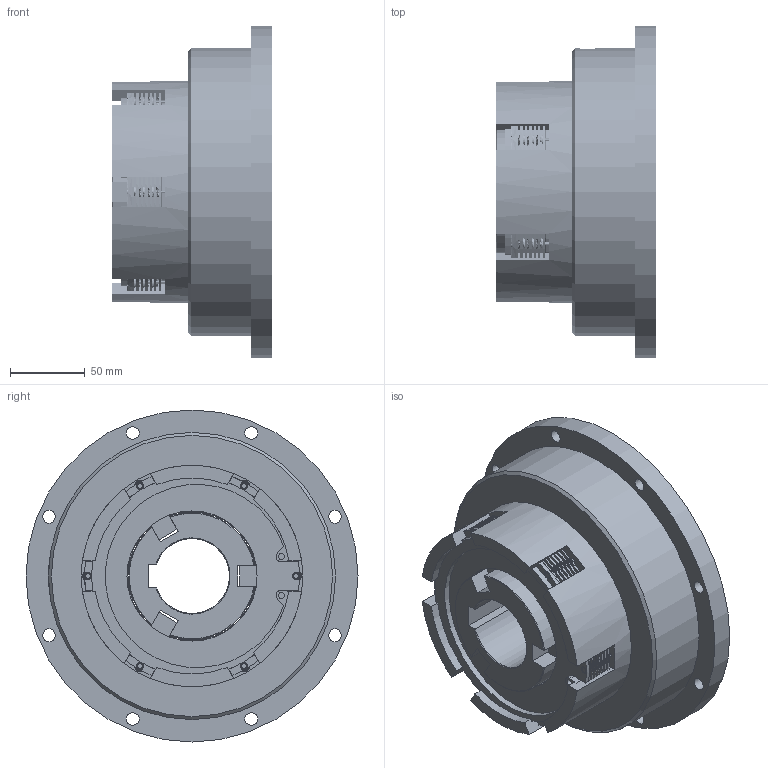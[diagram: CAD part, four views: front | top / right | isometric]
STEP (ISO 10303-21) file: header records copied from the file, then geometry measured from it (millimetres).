
FILE_DESCRIPTION(/* description */ (''),/* implementation_level */ '2;1');
FILE_NAME(/* name */ '\\Srv-tecnico\DATI\UFFICIO TECNICO\ARCHIVIO INVENTOR\DISEGNI\UFFICIO TECNICO\03_Friz_Oleodinamiche e Pneumatiche_Cilindro_Statico\03_40 FPL-N\03_40_006_01 FPL_N06\C\03_40_006_02 FPL-N006C V2013@STEP.stp',/* time_stamp */ '2016-01-28T14:48:46+01:00',/* author */ ('stefano'),/* organization */ (''),/* preprocessor_version */ 'ST-DEVELOPER v15.6',/* originating_system */ 'Autodesk Inventor 2015',/* authorisation */ '');
FILE_SCHEMA (('AUTOMOTIVE_DESIGN { 1 0 10303 214 3 1 1 }'));
Products named in the file (1): 03_40_006_02 FPL-N006C V2013_Substitute_1
Bounding box: 106.5 x 222 x 222 mm (x, y, z)
Volume: 1949818.3 mm3; surface area: 344435.5 mm2
Topology: 20 solids, 20 shells, 896 faces, 2336 edges, 1540 vertices
Faces by surface type: plane 447, cylinder 263, bspline 140, cone 32, torus 14
Full cylindrical faces by diameter (mm): 2 x6, 2.75 x48, 4 x2, 8.5 x8, 11.445 x1, 13 x8, 13.5 x8, 15.5 x12, 87 x9, 89 x1, 125 x2, 128.5 x6, 131 x1, 148 x1, 170 x2, 192 x1, 222 x1
Entity records: 51765 total; most frequent: CARTESIAN_POINT 29692, DIRECTION 4358, ORIENTED_EDGE 4292, EDGE_CURVE 2146, AXIS2_PLACEMENT_3D 1737, VERTEX_POINT 1506, EDGE_LOOP 1258, CIRCLE 980
